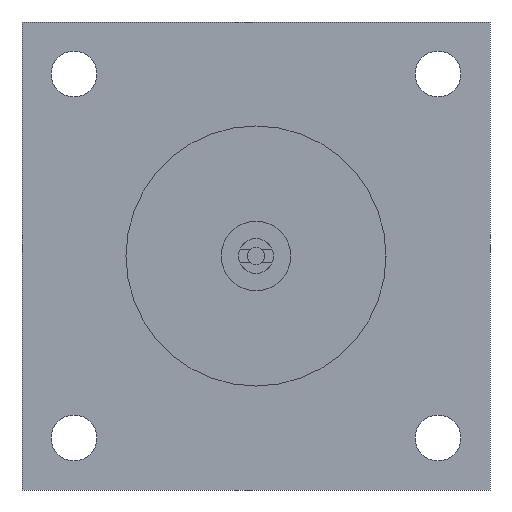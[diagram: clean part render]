
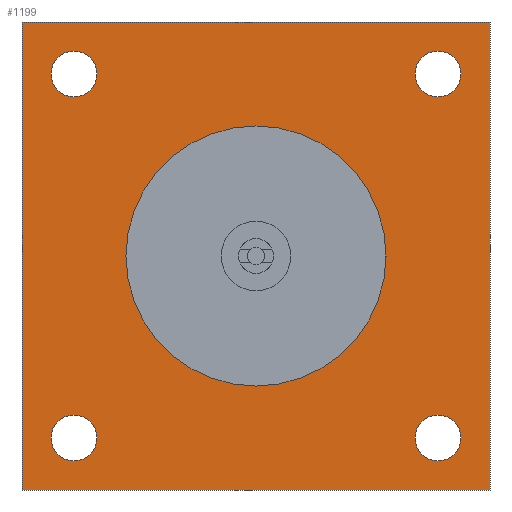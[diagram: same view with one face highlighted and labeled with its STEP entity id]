
A CAD part, left-side view. The second image highlights one B-rep face of the part: STEP entity #1199.
In plain terms, the highlighted planar face has unit normal (-1, 0, 0).
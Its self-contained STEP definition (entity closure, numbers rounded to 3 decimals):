
#2 = DIRECTION ( 'NONE',  ( 0., 0., 1. ) ) ;
#5 = CARTESIAN_POINT ( 'NONE',  ( -25., 105., -105. ) ) ;
#11 = FACE_BOUND ( 'NONE', #1636, .T. ) ;
#14 = LINE ( 'NONE', #153, #581 ) ;
#70 = EDGE_LOOP ( 'NONE', ( #1045, #849 ) ) ;
#79 = CIRCLE ( 'NONE', #1097, 75. ) ;
#88 = DIRECTION ( 'NONE',  ( 1., 0., 0. ) ) ;
#90 = AXIS2_PLACEMENT_3D ( 'NONE', #222, #88, #95 ) ;
#95 = DIRECTION ( 'NONE',  ( 0., 0., -1. ) ) ;
#97 = FACE_BOUND ( 'NONE', #1519, .T. ) ;
#126 = DIRECTION ( 'NONE',  ( 0., -1., 0. ) ) ;
#138 = AXIS2_PLACEMENT_3D ( 'NONE', #694, #1520, #1528 ) ;
#143 = VERTEX_POINT ( 'NONE', #457 ) ;
#150 = EDGE_CURVE ( 'NONE', #1037, #419, #1705, .T. ) ;
#153 = CARTESIAN_POINT ( 'NONE',  ( -25., 135., -135. ) ) ;
#157 = CARTESIAN_POINT ( 'NONE',  ( -25., -105., 91.75 ) ) ;
#170 = EDGE_CURVE ( 'NONE', #535, #1362, #1643, .T. ) ;
#186 = ORIENTED_EDGE ( 'NONE', *, *, #565, .F. ) ;
#210 = DIRECTION ( 'NONE',  ( 0., 0., 1. ) ) ;
#221 = CARTESIAN_POINT ( 'NONE',  ( -25., 105., 105. ) ) ;
#222 = CARTESIAN_POINT ( 'NONE',  ( -25., 0., 0. ) ) ;
#267 = PLANE ( 'NONE',  #90 ) ;
#275 = CIRCLE ( 'NONE', #1143, 13.25 ) ;
#332 = VERTEX_POINT ( 'NONE', #1635 ) ;
#354 = ORIENTED_EDGE ( 'NONE', *, *, #493, .F. ) ;
#372 = CARTESIAN_POINT ( 'NONE',  ( -25., -135., 135. ) ) ;
#386 = CARTESIAN_POINT ( 'NONE',  ( -25., 105., -118.25 ) ) ;
#396 = DIRECTION ( 'NONE',  ( 0., 0., 1. ) ) ;
#399 = CARTESIAN_POINT ( 'NONE',  ( -25., -135., 135. ) ) ;
#414 = CARTESIAN_POINT ( 'NONE',  ( -25., -105., 118.25 ) ) ;
#419 = VERTEX_POINT ( 'NONE', #447 ) ;
#441 = DIRECTION ( 'NONE',  ( -1., 0., 0. ) ) ;
#446 = VERTEX_POINT ( 'NONE', #979 ) ;
#447 = CARTESIAN_POINT ( 'NONE',  ( -25., 135., 135. ) ) ;
#453 = DIRECTION ( 'NONE',  ( -1., 0., 0. ) ) ;
#456 = LINE ( 'NONE', #399, #472 ) ;
#457 = CARTESIAN_POINT ( 'NONE',  ( -25., 135., -135. ) ) ;
#459 = CARTESIAN_POINT ( 'NONE',  ( -25., 105., -105. ) ) ;
#472 = VECTOR ( 'NONE', #396, 1000. ) ;
#487 = CARTESIAN_POINT ( 'NONE',  ( -25., 0., 75. ) ) ;
#492 = CARTESIAN_POINT ( 'NONE',  ( -25., 135., 135. ) ) ;
#493 = EDGE_CURVE ( 'NONE', #919, #446, #1155, .T. ) ;
#497 = AXIS2_PLACEMENT_3D ( 'NONE', #459, #453, #818 ) ;
#528 = VERTEX_POINT ( 'NONE', #386 ) ;
#534 = DIRECTION ( 'NONE',  ( 0., 0., 1. ) ) ;
#535 = VERTEX_POINT ( 'NONE', #414 ) ;
#550 = CIRCLE ( 'NONE', #971, 13.25 ) ;
#565 = EDGE_CURVE ( 'NONE', #528, #1703, #1510, .T. ) ;
#570 = ORIENTED_EDGE ( 'NONE', *, *, #751, .T. ) ;
#578 = AXIS2_PLACEMENT_3D ( 'NONE', #221, #441, #210 ) ;
#581 = VECTOR ( 'NONE', #126, 1000. ) ;
#600 = LINE ( 'NONE', #884, #621 ) ;
#621 = VECTOR ( 'NONE', #886, 1000. ) ;
#680 = AXIS2_PLACEMENT_3D ( 'NONE', #815, #1169, #2 ) ;
#694 = CARTESIAN_POINT ( 'NONE',  ( -25., -105., -105. ) ) ;
#696 = CARTESIAN_POINT ( 'NONE',  ( -25., 0., -75. ) ) ;
#713 = CIRCLE ( 'NONE', #1640, 13.25 ) ;
#721 = EDGE_CURVE ( 'NONE', #143, #1484, #14, .T. ) ;
#724 = DIRECTION ( 'NONE',  ( 0., 1., 0. ) ) ;
#751 = EDGE_CURVE ( 'NONE', #1484, #1037, #456, .T. ) ;
#753 = ORIENTED_EDGE ( 'NONE', *, *, #1270, .F. ) ;
#815 = CARTESIAN_POINT ( 'NONE',  ( -25., -105., 105. ) ) ;
#818 = DIRECTION ( 'NONE',  ( 0., 0., 1. ) ) ;
#827 = EDGE_CURVE ( 'NONE', #419, #143, #600, .T. ) ;
#846 = DIRECTION ( 'NONE',  ( -1., 0., 0. ) ) ;
#849 = ORIENTED_EDGE ( 'NONE', *, *, #1070, .F. ) ;
#858 = ORIENTED_EDGE ( 'NONE', *, *, #1507, .F. ) ;
#867 = CARTESIAN_POINT ( 'NONE',  ( -25., 105., -91.75 ) ) ;
#881 = CARTESIAN_POINT ( 'NONE',  ( -25., -105., -105. ) ) ;
#884 = CARTESIAN_POINT ( 'NONE',  ( -25., 135., 135. ) ) ;
#886 = DIRECTION ( 'NONE',  ( 0., 0., -1. ) ) ;
#894 = CARTESIAN_POINT ( 'NONE',  ( -25., -135., -135. ) ) ;
#913 = DIRECTION ( 'NONE',  ( 0., 0., 1. ) ) ;
#919 = VERTEX_POINT ( 'NONE', #1324 ) ;
#971 = AXIS2_PLACEMENT_3D ( 'NONE', #5, #1564, #1518 ) ;
#976 = ORIENTED_EDGE ( 'NONE', *, *, #1667, .F. ) ;
#979 = CARTESIAN_POINT ( 'NONE',  ( -25., 105., 118.25 ) ) ;
#1037 = VERTEX_POINT ( 'NONE', #372 ) ;
#1045 = ORIENTED_EDGE ( 'NONE', *, *, #1221, .F. ) ;
#1057 = AXIS2_PLACEMENT_3D ( 'NONE', #881, #846, #913 ) ;
#1070 = EDGE_CURVE ( 'NONE', #1310, #332, #1609, .T. ) ;
#1089 = CIRCLE ( 'NONE', #1112, 75. ) ;
#1097 = AXIS2_PLACEMENT_3D ( 'NONE', #1427, #1719, #1698 ) ;
#1112 = AXIS2_PLACEMENT_3D ( 'NONE', #1645, #1655, #1445 ) ;
#1143 = AXIS2_PLACEMENT_3D ( 'NONE', #1241, #1252, #1314 ) ;
#1155 = CIRCLE ( 'NONE', #578, 13.25 ) ;
#1169 = DIRECTION ( 'NONE',  ( -1., 0., 0. ) ) ;
#1171 = VERTEX_POINT ( 'NONE', #487 ) ;
#1199 = ADVANCED_FACE ( 'NONE', ( #11, #97, #1330, #1753, #1724, #1647 ), #267, .F. ) ;
#1202 = ORIENTED_EDGE ( 'NONE', *, *, #170, .F. ) ;
#1221 = EDGE_CURVE ( 'NONE', #332, #1310, #1524, .T. ) ;
#1228 = EDGE_LOOP ( 'NONE', ( #976, #186 ) ) ;
#1241 = CARTESIAN_POINT ( 'NONE',  ( -25., -105., 105. ) ) ;
#1252 = DIRECTION ( 'NONE',  ( -1., 0., 0. ) ) ;
#1270 = EDGE_CURVE ( 'NONE', #1657, #1171, #1089, .T. ) ;
#1274 = ORIENTED_EDGE ( 'NONE', *, *, #721, .T. ) ;
#1293 = EDGE_CURVE ( 'NONE', #446, #919, #713, .T. ) ;
#1304 = CARTESIAN_POINT ( 'NONE',  ( -25., -105., -118.25 ) ) ;
#1310 = VERTEX_POINT ( 'NONE', #1304 ) ;
#1314 = DIRECTION ( 'NONE',  ( 0., 0., 1. ) ) ;
#1322 = ORIENTED_EDGE ( 'NONE', *, *, #1293, .F. ) ;
#1324 = CARTESIAN_POINT ( 'NONE',  ( -25., 105., 91.75 ) ) ;
#1330 = FACE_BOUND ( 'NONE', #70, .T. ) ;
#1362 = VERTEX_POINT ( 'NONE', #157 ) ;
#1372 = ORIENTED_EDGE ( 'NONE', *, *, #1579, .F. ) ;
#1427 = CARTESIAN_POINT ( 'NONE',  ( -25., 0., 0. ) ) ;
#1442 = EDGE_LOOP ( 'NONE', ( #1322, #354 ) ) ;
#1443 = CARTESIAN_POINT ( 'NONE',  ( -25., 105., 105. ) ) ;
#1445 = DIRECTION ( 'NONE',  ( 0., 0., -1. ) ) ;
#1457 = DIRECTION ( 'NONE',  ( -1., 0., 0. ) ) ;
#1484 = VERTEX_POINT ( 'NONE', #894 ) ;
#1507 = EDGE_CURVE ( 'NONE', #1362, #535, #275, .T. ) ;
#1510 = CIRCLE ( 'NONE', #497, 13.25 ) ;
#1515 = ORIENTED_EDGE ( 'NONE', *, *, #827, .T. ) ;
#1518 = DIRECTION ( 'NONE',  ( 0., 0., 1. ) ) ;
#1519 = EDGE_LOOP ( 'NONE', ( #1202, #858 ) ) ;
#1520 = DIRECTION ( 'NONE',  ( -1., 0., 0. ) ) ;
#1524 = CIRCLE ( 'NONE', #138, 13.25 ) ;
#1528 = DIRECTION ( 'NONE',  ( 0., 0., 1. ) ) ;
#1564 = DIRECTION ( 'NONE',  ( -1., 0., 0. ) ) ;
#1579 = EDGE_CURVE ( 'NONE', #1171, #1657, #79, .T. ) ;
#1609 = CIRCLE ( 'NONE', #1057, 13.25 ) ;
#1620 = EDGE_LOOP ( 'NONE', ( #1274, #570, #1735, #1515 ) ) ;
#1635 = CARTESIAN_POINT ( 'NONE',  ( -25., -105., -91.75 ) ) ;
#1636 = EDGE_LOOP ( 'NONE', ( #753, #1372 ) ) ;
#1640 = AXIS2_PLACEMENT_3D ( 'NONE', #1443, #1457, #534 ) ;
#1643 = CIRCLE ( 'NONE', #680, 13.25 ) ;
#1645 = CARTESIAN_POINT ( 'NONE',  ( -25., 0., 0. ) ) ;
#1647 = FACE_OUTER_BOUND ( 'NONE', #1620, .T. ) ;
#1655 = DIRECTION ( 'NONE',  ( -1., 0., 0. ) ) ;
#1657 = VERTEX_POINT ( 'NONE', #696 ) ;
#1667 = EDGE_CURVE ( 'NONE', #1703, #528, #550, .T. ) ;
#1698 = DIRECTION ( 'NONE',  ( 0., 0., -1. ) ) ;
#1703 = VERTEX_POINT ( 'NONE', #867 ) ;
#1705 = LINE ( 'NONE', #492, #1738 ) ;
#1719 = DIRECTION ( 'NONE',  ( -1., 0., 0. ) ) ;
#1724 = FACE_BOUND ( 'NONE', #1228, .T. ) ;
#1735 = ORIENTED_EDGE ( 'NONE', *, *, #150, .T. ) ;
#1738 = VECTOR ( 'NONE', #724, 1000. ) ;
#1753 = FACE_BOUND ( 'NONE', #1442, .T. ) ;
